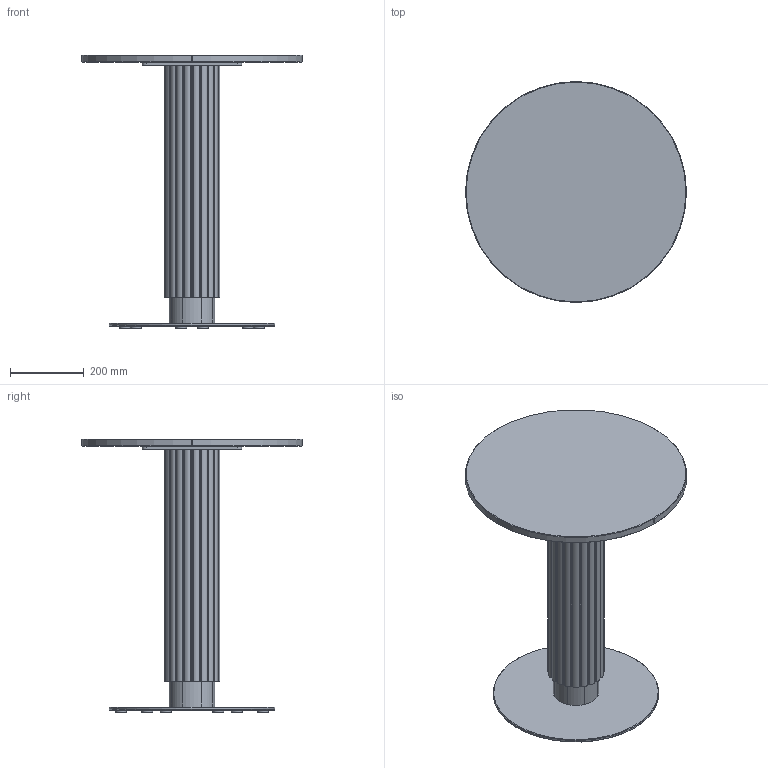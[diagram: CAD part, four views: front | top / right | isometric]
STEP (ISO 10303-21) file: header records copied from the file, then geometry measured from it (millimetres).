
FILE_DESCRIPTION( ('This file contains a STEP AP42 implementation' ,'as created by ZW3D STEP Interface translator.') ,'2;1' );
FILE_NAME( 'God - B_Rond - F1 - M1 - 600 x 600 x 750.stp' ,'24 912.112615', (''), ('ZWCAD Software Co.'), 'Version 1.0', 'ZW3D to STEP translator', '' );
FILE_SCHEMA(('AUTOMOTIVE_DESIGN { 1 0 10303 214 1 1 1 1 }'));
Length unit declared in the file: millimetre
Products named in the file (15): 0; PIED BISTROT PARAMETRIQUE_; SOCLE ACIER C Ø450 V.02_; SCL-D450-02_; PLA-R30A-01_; PLA-R30A-01; CROIX ACIER 370 V.02_; CRX-X370-02_; COLONNE ACIER Ø48.5 V.02_; TUB-D048-02_; PLA-R48A-01_; Colonne GODRON H700_; WUERTH 0276063020 Euro-screw 6.3x2 Verzinkt_; PLATEAU BISTROT PARAMETRIQUE_; insert_m6_13_
Assembly tree (25 placements, depth 3):
  0
  PIED BISTROT PARAMETRIQUE_
    SOCLE ACIER C Ø450 V.02_
      SCL-D450-02_
      PLA-R30A-01_
      PLA-R30A-01  x5
    CROIX ACIER 370 V.02_
      CRX-X370-02_
    COLONNE ACIER Ø48.5 V.02_
      TUB-D048-02_
      PLA-R48A-01_  x2
    Colonne GODRON H700_
    WUERTH 0276063020 Euro-screw 6.3x2 Verzinkt_
    PLATEAU BISTROT PARAMETRIQUE_
      insert_m6_13_  x8
Bounding box: 600 x 600 x 744 mm (x, y, z)
Volume: 17996103.4 mm3; surface area: 2349990.8 mm2
Topology: 29 solids, 29 shells, 656 faces, 1625 edges, 1042 vertices
Faces by surface type: plane 294, cylinder 193, bspline 121, cone 47, torus 1
Full cylindrical faces by diameter (mm): 4.88 x1, 6 x8, 6.3 x1, 8 x47, 12 x2, 14 x2, 30 x6, 44.5 x3, 48.5 x1, 450 x1
Entity records: 16234 total; most frequent: CARTESIAN_POINT 4039, DIRECTION 2249, ORIENTED_EDGE 2240, EDGE_CURVE 1120, AXIS2_PLACEMENT_3D 800, VERTEX_POINT 728, VECTOR 649, LINE 649
